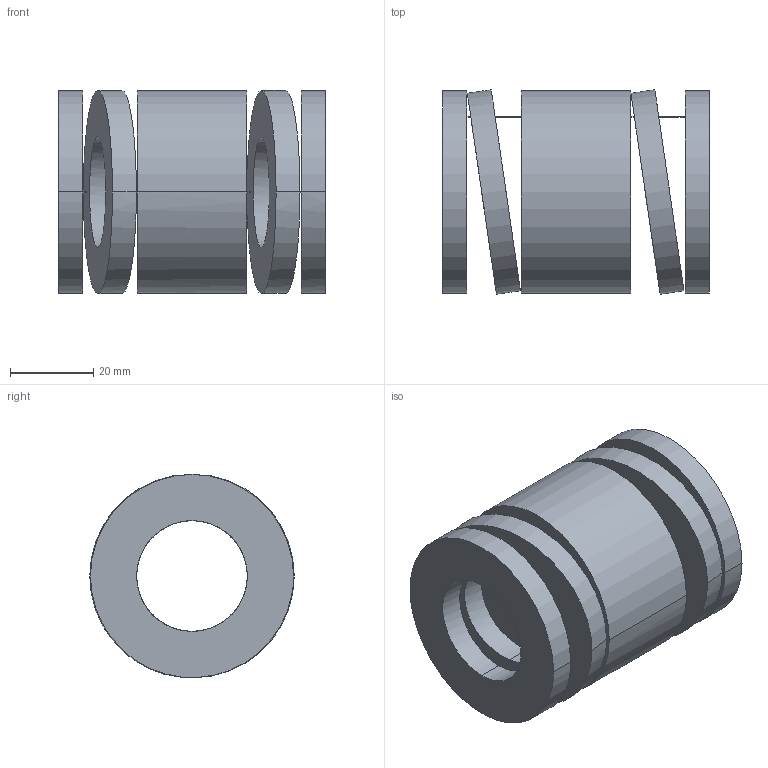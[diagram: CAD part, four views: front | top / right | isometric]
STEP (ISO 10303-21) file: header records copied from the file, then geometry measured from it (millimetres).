
FILE_DESCRIPTION(('CATIA V5 STEP Exchange'),'2;1');
FILE_NAME('C:\Users\Utente\Desktop\IO LAVORO\3D X SITO CF\X SITO\3D files 392B\392-B50-064.stp','2021-08-13T11:40:37+00:00',('none'),('none'),'CATIA Version 5 Release 20 GA (IN-10)','CATIA V5 STEP AP203','none');
FILE_SCHEMA(('CONFIG_CONTROL_DESIGN'));
Length unit declared in the file: millimetre
Products named in the file (1): 392-B50-064
Bounding box: 64 x 49.13 x 48.8 mm (x, y, z)
Volume: 64877.3 mm3; surface area: 24844 mm2
Topology: 1 solids, 1 shells, 38 faces, 92 edges, 64 vertices
Faces by surface type: cylinder 28, plane 10
Entity records: 1638 total; most frequent: CARTESIAN_POINT 761, ORIENTED_EDGE 184, DIRECTION 123, EDGE_CURVE 92, VERTEX_POINT 64, AXIS2_PLACEMENT_3D 58, EDGE_LOOP 56, B_SPLINE_CURVE_WITH_KNOTS 45
